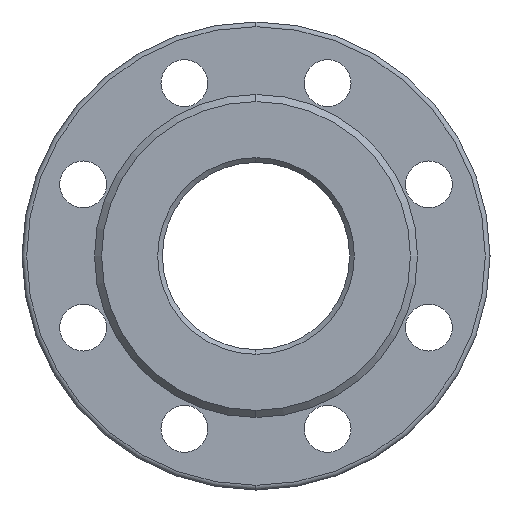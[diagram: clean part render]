
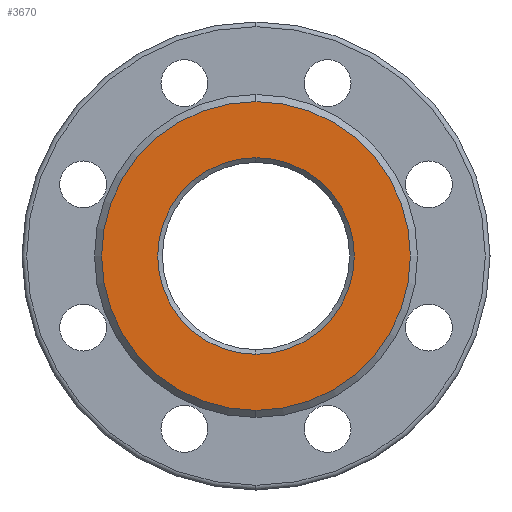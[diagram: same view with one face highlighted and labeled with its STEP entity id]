
A CAD part, left-side view. The second image highlights one B-rep face of the part: STEP entity #3670.
In plain terms, the highlighted planar face has unit normal (-1, 0, 0).
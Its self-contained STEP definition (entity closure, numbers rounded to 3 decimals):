
#58 = DIRECTION ( 'NONE',  ( 0., 0., 1. ) ) ;
#71 = EDGE_CURVE ( 'Defeatured_0_2+Defeatured_0_70+Defeatured_0_70+Defeatured_0_70', #4143, #2525, #3007, .T. ) ;
#158 = ORIENTED_EDGE ( 'NONE', *, *, #413, .T. ) ;
#310 = DIRECTION ( 'NONE',  ( -1., 0., 0. ) ) ;
#327 = DIRECTION ( 'NONE',  ( 1., 0., 0. ) ) ;
#413 = EDGE_CURVE ( 'Defeatured_0_2+Defeatured_0_3+Defeatured_0_3+Defeatured_0_3', #3419, #743, #3893, .T. ) ;
#626 = FACE_BOUND ( 'NONE', #3637, .T. ) ;
#743 = VERTEX_POINT ( 'NONE', #2910 ) ;
#785 = ORIENTED_EDGE ( 'NONE', *, *, #2220, .T. ) ;
#789 = CARTESIAN_POINT ( 'NONE',  ( -250., 0., 0. ) ) ;
#804 = CARTESIAN_POINT ( 'NONE',  ( -250., 0., 0. ) ) ;
#890 = AXIS2_PLACEMENT_3D ( 'NONE', #1430, #3934, #1103 ) ;
#893 = AXIS2_PLACEMENT_3D ( 'NONE', #804, #3251, #4354 ) ;
#1037 = ORIENTED_EDGE ( 'NONE', *, *, #4280, .T. ) ;
#1103 = DIRECTION ( 'NONE',  ( 0., 0., -1. ) ) ;
#1373 = DIRECTION ( 'NONE',  ( 0., 0., -1. ) ) ;
#1430 = CARTESIAN_POINT ( 'NONE',  ( -250., 40., 0. ) ) ;
#1450 = PLANE ( 'NONE',  #890 ) ;
#1464 = AXIS2_PLACEMENT_3D ( 'NONE', #2232, #4324, #58 ) ;
#1681 = AXIS2_PLACEMENT_3D ( 'NONE', #789, #327, #1373 ) ;
#2040 = CARTESIAN_POINT ( 'NONE',  ( -250., 0., 0. ) ) ;
#2066 = CIRCLE ( 'NONE', #4124, 66. ) ;
#2197 = CARTESIAN_POINT ( 'NONE',  ( -250., 0., 42. ) ) ;
#2220 = EDGE_CURVE ( 'Defeatured_0_2+Defeatured_0_3+Defeatured_0_3+Defeatured_0_3', #743, #3419, #2066, .T. ) ;
#2232 = CARTESIAN_POINT ( 'NONE',  ( -250., 0., 0. ) ) ;
#2395 = CARTESIAN_POINT ( 'NONE',  ( -250., 0., -42. ) ) ;
#2525 = VERTEX_POINT ( 'NONE', #2197 ) ;
#2910 = CARTESIAN_POINT ( 'NONE',  ( -250., 0., -66. ) ) ;
#3007 = CIRCLE ( 'NONE', #1681, 42. ) ;
#3251 = DIRECTION ( 'NONE',  ( 1., 0., 0. ) ) ;
#3419 = VERTEX_POINT ( 'NONE', #3581 ) ;
#3522 = DIRECTION ( 'NONE',  ( 0., 0., 1. ) ) ;
#3546 = EDGE_LOOP ( 'NONE', ( #785, #158 ) ) ;
#3581 = CARTESIAN_POINT ( 'NONE',  ( -250., 0., 66. ) ) ;
#3637 = EDGE_LOOP ( 'NONE', ( #1037, #4262 ) ) ;
#3670 = ADVANCED_FACE ( 'Defeatured_0_2', ( #626, #4251 ), #1450, .F. ) ;
#3893 = CIRCLE ( 'NONE', #1464, 66. ) ;
#3907 = CIRCLE ( 'NONE', #893, 42. ) ;
#3934 = DIRECTION ( 'NONE',  ( 1., 0., 0. ) ) ;
#4124 = AXIS2_PLACEMENT_3D ( 'NONE', #2040, #310, #3522 ) ;
#4143 = VERTEX_POINT ( 'NONE', #2395 ) ;
#4251 = FACE_OUTER_BOUND ( 'NONE', #3546, .T. ) ;
#4262 = ORIENTED_EDGE ( 'NONE', *, *, #71, .T. ) ;
#4280 = EDGE_CURVE ( 'Defeatured_0_2+Defeatured_0_70+Defeatured_0_70+Defeatured_0_70', #2525, #4143, #3907, .T. ) ;
#4324 = DIRECTION ( 'NONE',  ( -1., 0., 0. ) ) ;
#4354 = DIRECTION ( 'NONE',  ( 0., 0., -1. ) ) ;
